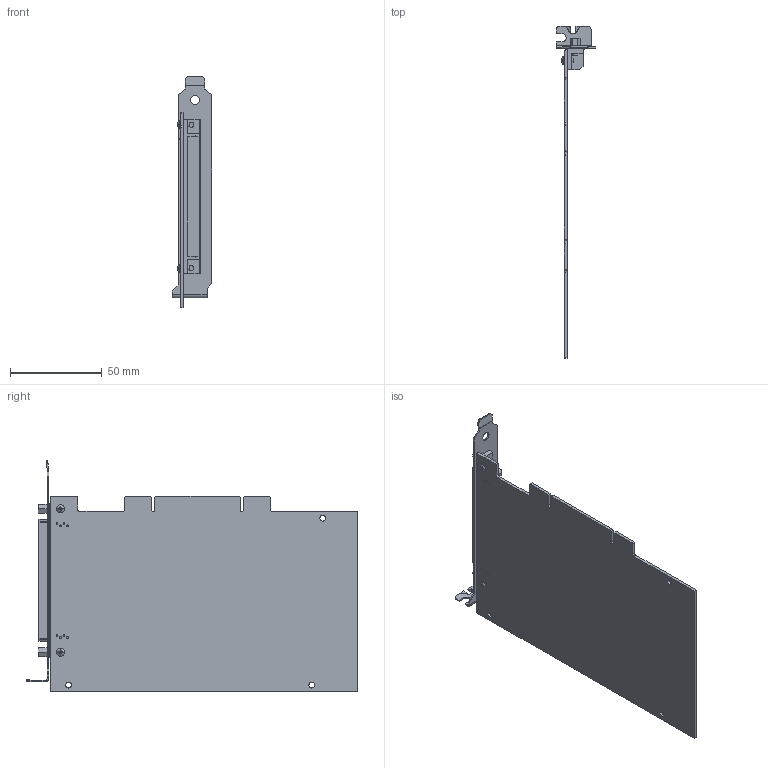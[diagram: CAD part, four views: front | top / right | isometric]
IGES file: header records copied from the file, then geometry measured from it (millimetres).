
Start section:  PTC IGES file: cu_pci-100pos_scsi.igs
Global section: file name: cu_pci-100pos_scsi.igs; native system: Pro/ENGINEER by Parametric Technology Corporation; preprocessor: 2010230; author: dkendric; organization: Unknown; date: 20110819.142826; units: inch
Bounding box: 21.59 x 180.91 x 126.21 mm (x, y, z)
Surface area: 41847.1 mm2 (no closed solid volume)
Topology: 0 solids, 0 shells, 281 faces, 1374 edges, 1330 vertices
Faces by surface type: bspline 197, revolution 84
